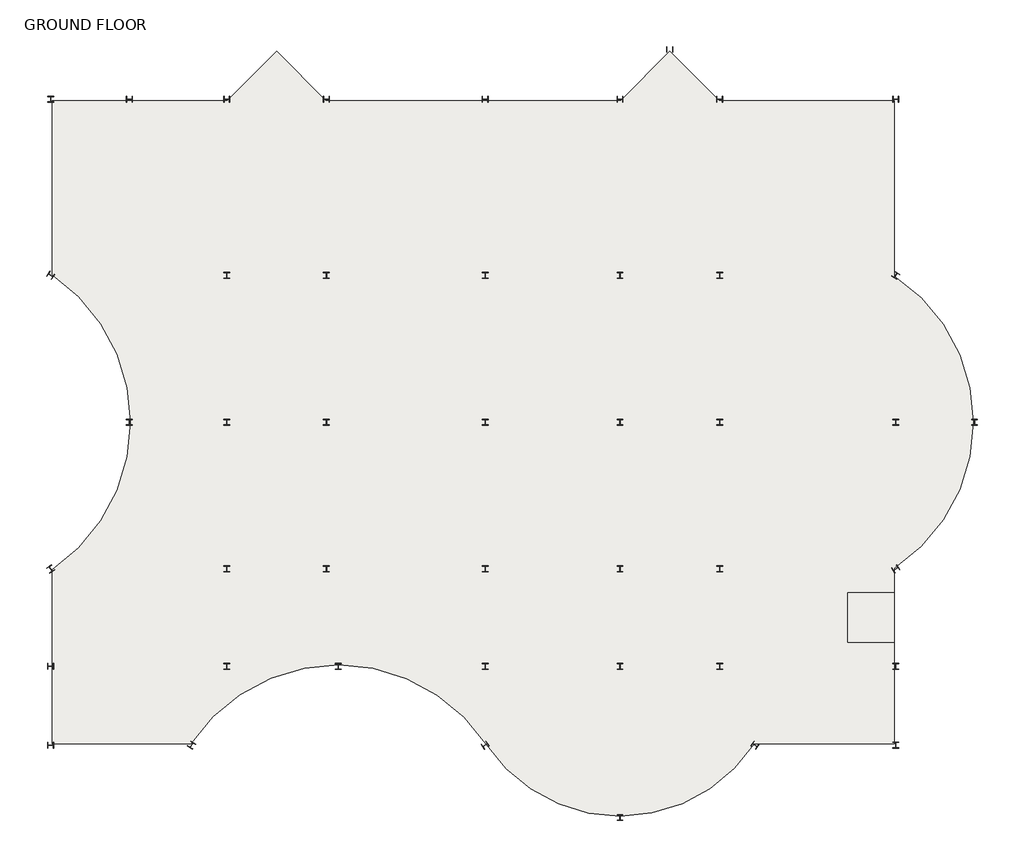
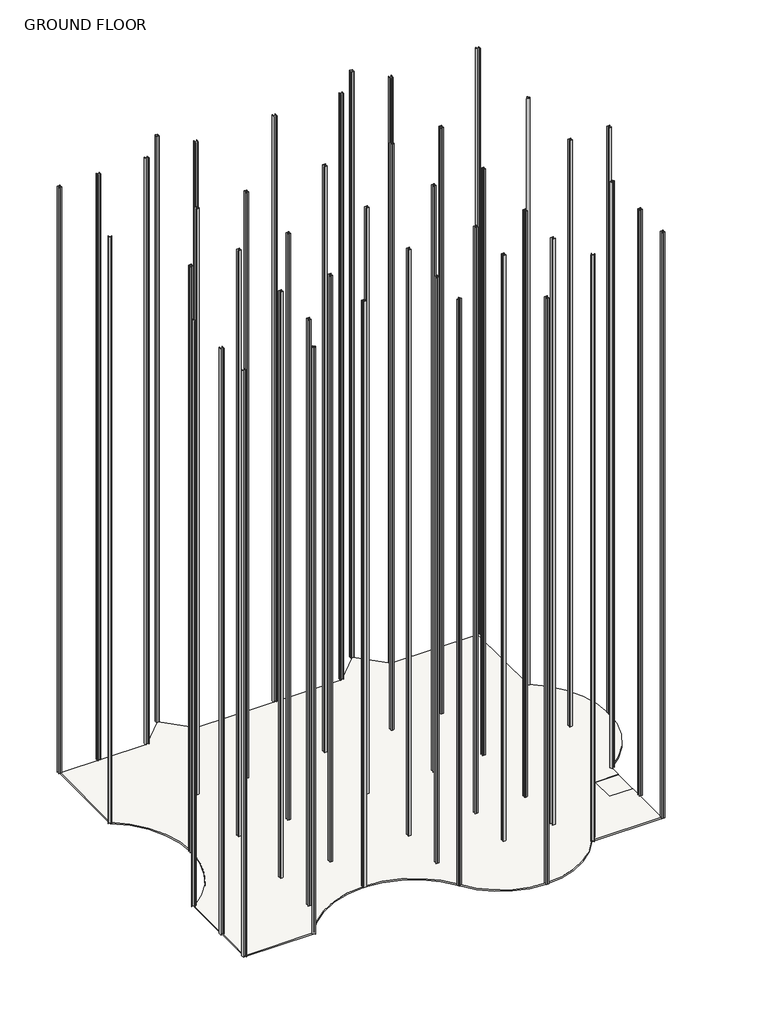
# One storey: 45 columns, 2 slabs.
"""IFC4 building model written with IfcOpenShell, lengths in millimetres."""

from ifc_helpers import new_model, si_unit, frame, origin, place, context, project, spatial, polyline, circle_curve, faceted_brep, transform, mapped, element, save
from ifc_brep_helpers import plane_surface, cylinder_surface, revolved_surface, advanced_brep
from components import square_hollow_sections_column_shs300x300x10_072c9116, uc_universal_columns_column_uc305x305x97_24c5e44f

model = new_model("IFC4")

# Units and contexts
model_context = context("Model", 3, world=origin())
ifc_project = project(units=[si_unit("LENGTHUNIT", "METRE", prefix="MILLI")], contexts=[model_context])

# Site, building, storey
site = spatial("IfcSite", under=ifc_project)
building = spatial("IfcBuilding", under=site)
storey = spatial("IfcBuildingStorey", under=building, Name="GROUND FLOOR", Elevation=0.0)

# Columns
placement = place(None, origin())
square_hollow_sections_column_shs300x300x10_shape = square_hollow_sections_column_shs300x300x10_072c9116(model_context)
element("IfcColumn", 1, ObjectType="Square Hollow Sections-Column : SHS300x300x10", at=placement, inside=storey, context=model_context, shape_type="MappedRepresentation", body=[
    mapped(square_hollow_sections_column_shs300x300x10_shape, transform((11885.575, 36269.575, 0.0), x_axis=(0.0, 1.0, 0.0), y_axis=(-1.0, 0.0, 0.0), z_axis=(0.0, 0.0, 1.0))),
])
element("IfcColumn", 2, ObjectType="Square Hollow Sections-Column : SHS300x300x10", at=placement, inside=storey, context=model_context, shape_type="MappedRepresentation", body=[
    mapped(square_hollow_sections_column_shs300x300x10_shape, transform((32297.575, 36269.575, 0.0), x_axis=(0.0, 1.0, 0.0), y_axis=(-1.0, 0.0, 0.0), z_axis=(0.0, 0.0, 1.0))),
])
uc_universal_columns_column_uc305x305x97_shape = uc_universal_columns_column_uc305x305x97_24c5e44f(model_context)
element("IfcColumn", 3, ObjectType="UC-Universal Columns-Column : UC305x305x97", at=placement, inside=storey, context=model_context, shape_type="MappedRepresentation", body=[
    mapped(uc_universal_columns_column_uc305x305x97_shape, transform((155.575, 33683.575, 0.0), x_axis=(1.0, 0.0, 0.0), y_axis=(0.0, 1.0, 0.0), z_axis=(0.0, 0.0, 1.0))),
])
element("IfcColumn", 4, ObjectType="UC-Universal Columns-Column : UC305x305x97", at=placement, inside=storey, context=model_context, shape_type="MappedRepresentation", body=[
    mapped(uc_universal_columns_column_uc305x305x97_shape, transform((155.575, 24539.575, 0.0), x_axis=(0.5527707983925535, 0.8333333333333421, 0.0), y_axis=(-0.8333333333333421, 0.5527707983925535, 0.0), z_axis=(0.0, 0.0, 1.0))),
])
element("IfcColumn", 5, ObjectType="UC-Universal Columns-Column : UC305x305x97", at=placement, inside=storey, context=model_context, shape_type="MappedRepresentation", body=[
    mapped(uc_universal_columns_column_uc305x305x97_shape, transform((4244.575, 16919.575, 0.0), x_axis=(-1.0, 0.0, 0.0), y_axis=(0.0, -1.0, 0.0), z_axis=(0.0, 0.0, 1.0))),
])
element("IfcColumn", 6, ObjectType="UC-Universal Columns-Column : UC305x305x97", at=placement, inside=storey, context=model_context, shape_type="MappedRepresentation", body=[
    mapped(uc_universal_columns_column_uc305x305x97_shape, transform((155.575, 9299.575, 0.0), x_axis=(-0.8333333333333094, -0.5527707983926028, 0.0), y_axis=(0.5527707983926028, -0.8333333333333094, 0.0), z_axis=(0.0, 0.0, 1.0))),
])
element("IfcColumn", 7, ObjectType="UC-Universal Columns-Column : UC305x305x97", at=placement, inside=storey, context=model_context, shape_type="MappedRepresentation", body=[
    mapped(uc_universal_columns_column_uc305x305x97_shape, transform((155.575, 4244.575, 0.0), x_axis=(0.0, -1.0, 0.0), y_axis=(1.0, 0.0, 0.0), z_axis=(0.0, 0.0, 1.0))),
])
element("IfcColumn", 8, ObjectType="UC-Universal Columns-Column : UC305x305x97", at=placement, inside=storey, context=model_context, shape_type="MappedRepresentation", body=[
    mapped(uc_universal_columns_column_uc305x305x97_shape, transform((155.575, 155.575, 0.0), x_axis=(0.0, -1.0, 0.0), y_axis=(1.0, 0.0, 0.0), z_axis=(0.0, 0.0, 1.0))),
])
element("IfcColumn", 9, ObjectType="UC-Universal Columns-Column : UC305x305x97", at=placement, inside=storey, context=model_context, shape_type="MappedRepresentation", body=[
    mapped(uc_universal_columns_column_uc305x305x97_shape, transform((4244.575, 33683.575, 0.0), x_axis=(0.0, -1.0, 0.0), y_axis=(1.0, 0.0, 0.0), z_axis=(0.0, 0.0, 1.0))),
])
element("IfcColumn", 10, ObjectType="UC-Universal Columns-Column : UC305x305x97", at=placement, inside=storey, context=model_context, shape_type="MappedRepresentation", body=[
    mapped(uc_universal_columns_column_uc305x305x97_shape, transform((9299.575, 33683.575, 0.0), x_axis=(0.0, -1.0, 0.0), y_axis=(1.0, 0.0, 0.0), z_axis=(0.0, 0.0, 1.0))),
])
element("IfcColumn", 11, ObjectType="UC-Universal Columns-Column : UC305x305x97", at=placement, inside=storey, context=model_context, shape_type="MappedRepresentation", body=[
    mapped(uc_universal_columns_column_uc305x305x97_shape, transform((14471.575, 33683.575, 0.0), x_axis=(0.0, 1.0, 0.0), y_axis=(-1.0, 0.0, 0.0), z_axis=(0.0, 0.0, 1.0))),
])
element("IfcColumn", 12, ObjectType="UC-Universal Columns-Column : UC305x305x97", at=placement, inside=storey, context=model_context, shape_type="MappedRepresentation", body=[
    mapped(uc_universal_columns_column_uc305x305x97_shape, transform((22710.575, 33683.575, 0.0), x_axis=(0.0, 1.0, 0.0), y_axis=(-1.0, 0.0, 0.0), z_axis=(0.0, 0.0, 1.0))),
])
element("IfcColumn", 13, ObjectType="UC-Universal Columns-Column : UC305x305x97", at=placement, inside=storey, context=model_context, shape_type="MappedRepresentation", body=[
    mapped(uc_universal_columns_column_uc305x305x97_shape, transform((29711.575, 33683.575, 0.0), x_axis=(0.0, 1.0, 0.0), y_axis=(-1.0, 0.0, 0.0), z_axis=(0.0, 0.0, 1.0))),
])
element("IfcColumn", 14, ObjectType="UC-Universal Columns-Column : UC305x305x97", at=placement, inside=storey, context=model_context, shape_type="MappedRepresentation", body=[
    mapped(uc_universal_columns_column_uc305x305x97_shape, transform((34883.575, 33683.575, 0.0), x_axis=(0.0, 1.0, 0.0), y_axis=(-1.0, 0.0, 0.0), z_axis=(0.0, 0.0, 1.0))),
])
element("IfcColumn", 15, ObjectType="UC-Universal Columns-Column : UC305x305x97", at=placement, inside=storey, context=model_context, shape_type="MappedRepresentation", body=[
    mapped(uc_universal_columns_column_uc305x305x97_shape, transform((44027.575, 33683.575, 0.0), x_axis=(0.0, 1.0, 0.0), y_axis=(-1.0, 0.0, 0.0), z_axis=(0.0, 0.0, 1.0))),
])
element("IfcColumn", 16, ObjectType="UC-Universal Columns-Column : UC305x305x97", at=placement, inside=storey, context=model_context, shape_type="MappedRepresentation", body=[
    mapped(uc_universal_columns_column_uc305x305x97_shape, transform((44027.575, 24539.575, 0.0), x_axis=(-0.8333965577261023, 0.5526754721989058, 0.0), y_axis=(-0.5526754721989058, -0.8333965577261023, 0.0), z_axis=(0.0, 0.0, 1.0))),
])
element("IfcColumn", 17, ObjectType="UC-Universal Columns-Column : UC305x305x97", at=placement, inside=storey, context=model_context, shape_type="MappedRepresentation", body=[
    mapped(uc_universal_columns_column_uc305x305x97_shape, transform((48116.575, 16919.575, 0.0), x_axis=(-1.0, 0.0, 0.0), y_axis=(0.0, -1.0, 0.0), z_axis=(0.0, 0.0, 1.0))),
])
element("IfcColumn", 18, ObjectType="UC-Universal Columns-Column : UC305x305x97", at=placement, inside=storey, context=model_context, shape_type="MappedRepresentation", body=[
    mapped(uc_universal_columns_column_uc305x305x97_shape, transform((44027.575, 9299.575, 0.0), x_axis=(-0.5526754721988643, 0.8333965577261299, 0.0), y_axis=(-0.8333965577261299, -0.5526754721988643, 0.0), z_axis=(0.0, 0.0, 1.0))),
])
element("IfcColumn", 19, ObjectType="UC-Universal Columns-Column : UC305x305x97", at=placement, inside=storey, context=model_context, shape_type="MappedRepresentation", body=[
    mapped(uc_universal_columns_column_uc305x305x97_shape, transform((44027.575, 16919.575, 0.0), x_axis=(-1.0, 0.0, 0.0), y_axis=(0.0, -1.0, 0.0), z_axis=(0.0, 0.0, 1.0))),
])
element("IfcColumn", 20, ObjectType="UC-Universal Columns-Column : UC305x305x97", at=placement, inside=storey, context=model_context, shape_type="MappedRepresentation", body=[
    mapped(uc_universal_columns_column_uc305x305x97_shape, transform((44027.575, 4244.575, 0.0), x_axis=(-1.0, 0.0, 0.0), y_axis=(0.0, -1.0, 0.0), z_axis=(0.0, 0.0, 1.0))),
])
element("IfcColumn", 21, ObjectType="UC-Universal Columns-Column : UC305x305x97", at=placement, inside=storey, context=model_context, shape_type="MappedRepresentation", body=[
    mapped(uc_universal_columns_column_uc305x305x97_shape, transform((44027.575, 155.575, 0.0), x_axis=(-1.0, 0.0, 0.0), y_axis=(0.0, -1.0, 0.0), z_axis=(0.0, 0.0, 1.0))),
])
element("IfcColumn", 22, ObjectType="UC-Universal Columns-Column : UC305x305x97", at=placement, inside=storey, context=model_context, shape_type="MappedRepresentation", body=[
    mapped(uc_universal_columns_column_uc305x305x97_shape, transform((36716.575, 155.575, 0.0), x_axis=(-0.5526093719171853, -0.8334403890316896, 0.0), y_axis=(0.8334403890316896, -0.5526093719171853, 0.0), z_axis=(0.0, 0.0, 1.0))),
])
element("IfcColumn", 23, ObjectType="UC-Universal Columns-Column : UC305x305x97", at=placement, inside=storey, context=model_context, shape_type="MappedRepresentation", body=[
    mapped(uc_universal_columns_column_uc305x305x97_shape, transform((29711.575, -3601.425, 0.0), x_axis=(-0.9999999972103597, 7.469458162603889e-05, 0.0), y_axis=(-7.469458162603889e-05, -0.9999999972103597, 0.0), z_axis=(0.0, 0.0, 1.0))),
])
element("IfcColumn", 24, ObjectType="UC-Universal Columns-Column : UC305x305x97", at=placement, inside=storey, context=model_context, shape_type="MappedRepresentation", body=[
    mapped(uc_universal_columns_column_uc305x305x97_shape, transform((22710.575, 155.575, 0.0), x_axis=(-0.5527598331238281, 0.8333406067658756, 0.0), y_axis=(-0.8333406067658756, -0.5527598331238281, 0.0), z_axis=(0.0, 0.0, 1.0))),
])
element("IfcColumn", 25, ObjectType="UC-Universal Columns-Column : UC305x305x97", at=placement, inside=storey, context=model_context, shape_type="MappedRepresentation", body=[
    mapped(uc_universal_columns_column_uc305x305x97_shape, transform((15090.575, 4244.575, 0.0), x_axis=(-1.0, 0.0, 0.0), y_axis=(0.0, -1.0, 0.0), z_axis=(0.0, 0.0, 1.0))),
])
element("IfcColumn", 26, ObjectType="UC-Universal Columns-Column : UC305x305x97", at=placement, inside=storey, context=model_context, shape_type="MappedRepresentation", body=[
    mapped(uc_universal_columns_column_uc305x305x97_shape, transform((7470.575, 155.575, 0.0), x_axis=(0.8333400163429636, -0.5527607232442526, 0.0), y_axis=(0.5527607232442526, 0.8333400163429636, 0.0), z_axis=(0.0, 0.0, 1.0))),
])
element("IfcColumn", 27, ObjectType="UC-Universal Columns-Column : UC305x305x97", at=placement, inside=storey, context=model_context, shape_type="MappedRepresentation", body=[
    mapped(uc_universal_columns_column_uc305x305x97_shape, transform((9299.575, 4244.575, 0.0), x_axis=(1.0, 0.0, 0.0), y_axis=(0.0, 1.0, 0.0), z_axis=(0.0, 0.0, 1.0))),
])
element("IfcColumn", 28, ObjectType="UC-Universal Columns-Column : UC305x305x97", at=placement, inside=storey, context=model_context, shape_type="MappedRepresentation", body=[
    mapped(uc_universal_columns_column_uc305x305x97_shape, transform((9299.575, 9299.575, 0.0), x_axis=(1.0, 0.0, 0.0), y_axis=(0.0, 1.0, 0.0), z_axis=(0.0, 0.0, 1.0))),
])
element("IfcColumn", 29, ObjectType="UC-Universal Columns-Column : UC305x305x97", at=placement, inside=storey, context=model_context, shape_type="MappedRepresentation", body=[
    mapped(uc_universal_columns_column_uc305x305x97_shape, transform((9299.575, 16919.575, 0.0), x_axis=(1.0, 0.0, 0.0), y_axis=(0.0, 1.0, 0.0), z_axis=(0.0, 0.0, 1.0))),
])
element("IfcColumn", 30, ObjectType="UC-Universal Columns-Column : UC305x305x97", at=placement, inside=storey, context=model_context, shape_type="MappedRepresentation", body=[
    mapped(uc_universal_columns_column_uc305x305x97_shape, transform((9299.575, 24539.575, 0.0), x_axis=(1.0, 0.0, 0.0), y_axis=(0.0, 1.0, 0.0), z_axis=(0.0, 0.0, 1.0))),
])
element("IfcColumn", 31, ObjectType="UC-Universal Columns-Column : UC305x305x97", at=placement, inside=storey, context=model_context, shape_type="MappedRepresentation", body=[
    mapped(uc_universal_columns_column_uc305x305x97_shape, transform((14471.575, 9299.575, 0.0), x_axis=(1.0, 0.0, 0.0), y_axis=(0.0, 1.0, 0.0), z_axis=(0.0, 0.0, 1.0))),
])
element("IfcColumn", 32, ObjectType="UC-Universal Columns-Column : UC305x305x97", at=placement, inside=storey, context=model_context, shape_type="MappedRepresentation", body=[
    mapped(uc_universal_columns_column_uc305x305x97_shape, transform((14471.575, 16919.575, 0.0), x_axis=(1.0, 0.0, 0.0), y_axis=(0.0, 1.0, 0.0), z_axis=(0.0, 0.0, 1.0))),
])
element("IfcColumn", 33, ObjectType="UC-Universal Columns-Column : UC305x305x97", at=placement, inside=storey, context=model_context, shape_type="MappedRepresentation", body=[
    mapped(uc_universal_columns_column_uc305x305x97_shape, transform((14471.575, 24539.575, 0.0), x_axis=(1.0, 0.0, 0.0), y_axis=(0.0, 1.0, 0.0), z_axis=(0.0, 0.0, 1.0))),
])
element("IfcColumn", 34, ObjectType="UC-Universal Columns-Column : UC305x305x97", at=placement, inside=storey, context=model_context, shape_type="MappedRepresentation", body=[
    mapped(uc_universal_columns_column_uc305x305x97_shape, transform((22710.575, 24539.575, 0.0), x_axis=(1.0, 0.0, 0.0), y_axis=(0.0, 1.0, 0.0), z_axis=(0.0, 0.0, 1.0))),
])
element("IfcColumn", 35, ObjectType="UC-Universal Columns-Column : UC305x305x97", at=placement, inside=storey, context=model_context, shape_type="MappedRepresentation", body=[
    mapped(uc_universal_columns_column_uc305x305x97_shape, transform((29711.575, 24539.575, 0.0), x_axis=(1.0, 0.0, 0.0), y_axis=(0.0, 1.0, 0.0), z_axis=(0.0, 0.0, 1.0))),
])
element("IfcColumn", 36, ObjectType="UC-Universal Columns-Column : UC305x305x97", at=placement, inside=storey, context=model_context, shape_type="MappedRepresentation", body=[
    mapped(uc_universal_columns_column_uc305x305x97_shape, transform((34883.575, 24539.575, 0.0), x_axis=(1.0, 0.0, 0.0), y_axis=(0.0, 1.0, 0.0), z_axis=(0.0, 0.0, 1.0))),
])
element("IfcColumn", 37, ObjectType="UC-Universal Columns-Column : UC305x305x97", at=placement, inside=storey, context=model_context, shape_type="MappedRepresentation", body=[
    mapped(uc_universal_columns_column_uc305x305x97_shape, transform((34883.575, 16919.575, 0.0), x_axis=(1.0, 0.0, 0.0), y_axis=(0.0, 1.0, 0.0), z_axis=(0.0, 0.0, 1.0))),
])
element("IfcColumn", 38, ObjectType="UC-Universal Columns-Column : UC305x305x97", at=placement, inside=storey, context=model_context, shape_type="MappedRepresentation", body=[
    mapped(uc_universal_columns_column_uc305x305x97_shape, transform((34883.575, 9299.575, 0.0), x_axis=(1.0, 0.0, 0.0), y_axis=(0.0, 1.0, 0.0), z_axis=(0.0, 0.0, 1.0))),
])
element("IfcColumn", 39, ObjectType="UC-Universal Columns-Column : UC305x305x97", at=placement, inside=storey, context=model_context, shape_type="MappedRepresentation", body=[
    mapped(uc_universal_columns_column_uc305x305x97_shape, transform((34883.575, 4244.575, 0.0), x_axis=(1.0, 0.0, 0.0), y_axis=(0.0, 1.0, 0.0), z_axis=(0.0, 0.0, 1.0))),
])
element("IfcColumn", 40, ObjectType="UC-Universal Columns-Column : UC305x305x97", at=placement, inside=storey, context=model_context, shape_type="MappedRepresentation", body=[
    mapped(uc_universal_columns_column_uc305x305x97_shape, transform((29711.575, 4244.575, 0.0), x_axis=(1.0, 0.0, 0.0), y_axis=(0.0, 1.0, 0.0), z_axis=(0.0, 0.0, 1.0))),
])
element("IfcColumn", 41, ObjectType="UC-Universal Columns-Column : UC305x305x97", at=placement, inside=storey, context=model_context, shape_type="MappedRepresentation", body=[
    mapped(uc_universal_columns_column_uc305x305x97_shape, transform((29711.575, 9299.575, 0.0), x_axis=(1.0, 0.0, 0.0), y_axis=(0.0, 1.0, 0.0), z_axis=(0.0, 0.0, 1.0))),
])
element("IfcColumn", 42, ObjectType="UC-Universal Columns-Column : UC305x305x97", at=placement, inside=storey, context=model_context, shape_type="MappedRepresentation", body=[
    mapped(uc_universal_columns_column_uc305x305x97_shape, transform((29711.575, 16919.575, 0.0), x_axis=(1.0, 0.0, 0.0), y_axis=(0.0, 1.0, 0.0), z_axis=(0.0, 0.0, 1.0))),
])
element("IfcColumn", 43, ObjectType="UC-Universal Columns-Column : UC305x305x97", at=placement, inside=storey, context=model_context, shape_type="MappedRepresentation", body=[
    mapped(uc_universal_columns_column_uc305x305x97_shape, transform((22710.575, 16919.575, 0.0), x_axis=(1.0, 0.0, 0.0), y_axis=(0.0, 1.0, 0.0), z_axis=(0.0, 0.0, 1.0))),
])
element("IfcColumn", 44, ObjectType="UC-Universal Columns-Column : UC305x305x97", at=placement, inside=storey, context=model_context, shape_type="MappedRepresentation", body=[
    mapped(uc_universal_columns_column_uc305x305x97_shape, transform((22710.575, 9299.575, 0.0), x_axis=(1.0, 0.0, 0.0), y_axis=(0.0, 1.0, 0.0), z_axis=(0.0, 0.0, 1.0))),
])
element("IfcColumn", 45, ObjectType="UC-Universal Columns-Column : UC305x305x97", at=placement, inside=storey, context=model_context, shape_type="MappedRepresentation", body=[
    mapped(uc_universal_columns_column_uc305x305x97_shape, transform((22710.575, 4244.575, 0.0), x_axis=(1.0, 0.0, 0.0), y_axis=(0.0, 1.0, 0.0), z_axis=(0.0, 0.0, 1.0))),
])

# Slabs
element("IfcSlab", 46, ObjectType="150mm Foundation Slab on Grade", at=placement, inside=storey, context=model_context, shape_type="AdvancedBrep", body=[
    advanced_brep(
    [(228.5, 24578.6120346, -150.0), (228.5, 33610.65, -150.0), (9329.781524, 33610.65, -150.0), (11885.8887629, 36166.7572388, -150.0), (14441.9960017, 33610.65, -150.0), (29742.4090498, 33610.65, -150.0), (32298.5162886, 36166.7572388, -150.0), (34854.6235274, 33610.65, -150.0), (43955.9050515, 33610.65, -150.0), (43955.9050515, 24500.3369473, -150.0), (43955.9050515, 9338.8130527, -150.0), (43955.9050515, 8329.575, -150.0), (43955.9050515, 8079.575, -150.0), (41515.9050515, 8079.575, -150.0), (41515.9050515, 5464.575, -150.0), (43955.9050515, 5464.575, -150.0), (43955.9050515, 5214.575, -150.0), (43955.9050515, 228.5, -150.0), (36674.383023, 228.5, -150.0), (22771.5458333, 195.8858105, -150.0), (7431.7379654, 228.5, -150.0), (228.5, 228.5, -150.0), (228.5, 9260.5379654, -150.0), (228.5, 24578.6120346, 0.0), (228.5, 9260.5379654, 0.0), (228.5, 228.5, 0.0), (7431.7379654, 228.5, 0.0), (22771.5458333, 195.8858105, 0.0), (36674.383023, 228.5, 0.0), (43955.9050515, 228.5, 0.0), (43955.9050515, 5464.575, 0.0), (41515.9050515, 5464.575, 0.0), (41515.9050515, 8079.575, 0.0), (43955.9050515, 8079.575, 0.0), (43955.9050515, 9338.8130527, 0.0), (43955.9050515, 24500.3369473, 0.0), (43955.9050515, 33610.65, 0.0), (34854.6235274, 33610.65, 0.0), (32298.5162886, 36166.7572388, 0.0), (29742.4090498, 33610.65, 0.0), (14441.9960017, 33610.65, 0.0), (11885.8887629, 36166.7572388, 0.0), (9329.781524, 33610.65, 0.0), (228.5, 33610.65, 0.0), (43955.9050515, 8079.575, -50.0), (41515.9050515, 8079.575, -50.0), (41515.9050515, 5464.575, -50.0), (43955.9050515, 5464.575, -50.0)],
    [
        (0, 1),
        (1, 2),
        (2, 3),
        (3, 4),
        (4, 5),
        (5, 6),
        (6, 7),
        (7, 8),
        (8, 9),
        (9, 10, circle_curve(frame((38974.293871, 16919.575, -150.0), z_axis=(0.0, 0.0, -1.0), x_axis=(1.0, 0.0, 0.0)), 9071.075)),
        (10, 11),
        (11, 12),
        (12, 13),
        (13, 14),
        (14, 15),
        (15, 16),
        (16, 17),
        (17, 18),
        (18, 19, circle_curve(frame((29712.2025257, 4799.7966199, -150.0), z_axis=(0.0, 0.0, -1.0), x_axis=(1.0, 0.0, 0.0)), 8328.7880309)),
        (19, 20, circle_curve(frame((15090.775, -4898.9611805, -150.0), z_axis=(0.0, 0.0, 1.0), x_axis=(1.0, 0.0, 0.0)), 9216.925)),
        (20, 21),
        (21, 22),
        (22, 0, circle_curve(frame((-4898.9611805, 16919.575, -150.0), z_axis=(0.0, 0.0, 1.0), x_axis=(1.0, 0.0, 0.0)), 9216.925)),
        (23, 24, circle_curve(frame((-4898.9611805, 16919.575, 0.0), z_axis=(0.0, 0.0, -1.0), x_axis=(1.0, 0.0, 0.0)), 9216.925)),
        (24, 25),
        (25, 26),
        (26, 27, circle_curve(frame((15090.775, -4898.9611805, 0.0), z_axis=(0.0, 0.0, -1.0), x_axis=(1.0, 0.0, 0.0)), 9216.925)),
        (27, 28, circle_curve(frame((29712.2025257, 4799.7966199, 0.0), z_axis=(0.0, 0.0, 1.0), x_axis=(1.0, 0.0, 0.0)), 8328.7880309)),
        (28, 29),
        (29, 30),
        (30, 31),
        (31, 32),
        (32, 33),
        (33, 34),
        (34, 35, circle_curve(frame((38974.293871, 16919.575, 0.0), z_axis=(0.0, 0.0, 1.0), x_axis=(1.0, 0.0, 0.0)), 9071.075)),
        (35, 36),
        (36, 37),
        (37, 38),
        (38, 39),
        (39, 40),
        (40, 41),
        (41, 42),
        (42, 43),
        (43, 23),
        (0, 23),
        (43, 1),
        (42, 2),
        (41, 3),
        (40, 4),
        (39, 5),
        (38, 6),
        (37, 7),
        (36, 8),
        (35, 9),
        (34, 10),
        (33, 44),
        (44, 12),
        (17, 29),
        (28, 18),
        (27, 19),
        (26, 20),
        (25, 21),
        (24, 22),
        (32, 45),
        (45, 13),
        (31, 46),
        (46, 14),
        (30, 47),
        (47, 15),
    ],
    [
        plane_surface(frame((228.5, 24578.6120346, -150.0), z_axis=(0.0, 0.0, -1.0), x_axis=(0.0, 1.0, 0.0))),
        plane_surface(frame((228.5, 24578.6120346, 0.0), z_axis=(0.0, 0.0, 1.0), x_axis=(0.0, -1.0, 0.0))),
        plane_surface(frame((228.5, 24578.6120346, -150.0), z_axis=(-1.0, 0.0, 0.0), x_axis=(0.0, 0.0, 1.0))),
        plane_surface(frame((228.5, 33610.65, -150.0), z_axis=(0.0, 1.0, 0.0), x_axis=(0.0, 0.0, 1.0))),
        plane_surface(frame((9329.781524, 33610.65, -150.0), z_axis=(-0.7071067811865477, 0.7071067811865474, 0.0), x_axis=(0.0, 0.0, 1.0))),
        plane_surface(frame((11885.8887629, 36166.7572388, -150.0), z_axis=(0.7071067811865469, 0.7071067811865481, 0.0), x_axis=(0.0, 0.0, 1.0))),
        plane_surface(frame((14441.9960017, 33610.65, -150.0), z_axis=(0.0, 1.0, 0.0), x_axis=(0.0, 0.0, 1.0))),
        plane_surface(frame((29742.4090498, 33610.65, -150.0), z_axis=(-0.7071067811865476, 0.7071067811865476, 0.0), x_axis=(0.0, 0.0, 1.0))),
        plane_surface(frame((32298.5162886, 36166.7572388, -150.0), z_axis=(0.707106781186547, 0.7071067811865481, 0.0), x_axis=(0.0, 0.0, 1.0))),
        plane_surface(frame((34854.6235274, 33610.65, -150.0), z_axis=(0.0, 1.0, 0.0), x_axis=(0.0, 0.0, 1.0))),
        plane_surface(frame((43955.9050515, 33610.65, -150.0), z_axis=(1.0, 0.0, 0.0), x_axis=(0.0, 0.0, 1.0))),
        cylinder_surface(frame((38974.293871, 16919.575, 0.0), z_axis=(0.0, 0.0, -1.0), x_axis=(1.0, 0.0, 0.0)), 9071.075),
        plane_surface(frame((43955.9050515, 9338.8130527, -150.0), z_axis=(1.0, 0.0, 0.0), x_axis=(0.0, 0.0, 1.0))),
        plane_surface(frame((43955.9050515, 228.5, -150.0), z_axis=(0.0, -1.0, 0.0), x_axis=(0.0, 0.0, 1.0))),
        cylinder_surface(frame((29712.2025257, 4799.7966199, 0.0), z_axis=(0.0, 0.0, -1.0), x_axis=(1.0, 0.0, 0.0)), 8328.7880309),
        revolved_surface(polyline([(24307.699999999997, -4898.9611805, 0.0), (24307.699999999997, -4898.9611805, -150.0)]), (15090.775, -4898.9611805, 0.0), (0.0, 0.0, 1.0)),
        plane_surface(frame((7431.7379654, 228.5, -150.0), z_axis=(0.0, -1.0, 0.0), x_axis=(0.0, 0.0, 1.0))),
        plane_surface(frame((228.5, 228.5, -150.0), z_axis=(-1.0, 0.0, 0.0), x_axis=(0.0, 0.0, 1.0))),
        revolved_surface(polyline([(4317.963819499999, 16919.575, 0.0), (4317.963819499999, 16919.575, -150.0)]), (-4898.9611805, 16919.575, 0.0), (0.0, 0.0, 1.0)),
        plane_surface(frame((43955.9050515, 8079.575, -150.0), z_axis=(0.0, -1.0, 0.0), x_axis=(0.0, 0.0, 1.0))),
        plane_surface(frame((41515.9050515, 8079.575, -150.0), z_axis=(1.0, 0.0, 0.0), x_axis=(0.0, 0.0, 1.0))),
        plane_surface(frame((41515.9050515, 5464.575, -150.0), z_axis=(0.0, 1.0, 0.0), x_axis=(0.0, 0.0, 1.0))),
        plane_surface(frame((43955.9050515, 5464.575, -150.0), z_axis=(1.0, 0.0, 0.0), x_axis=(0.0, 0.0, 1.0))),
    ],
    [
        (0, [[1, 2, 3, 4, 5, 6, 7, 8, 9, 10, 11, 12, 13, 14, 15, 16, 17, 18, 19, 20, 21, 22, 23]]),
        (1, [[24, 25, 26, 27, 28, 29, 30, 31, 32, 33, 34, 35, 36, 37, 38, 39, 40, 41, 42, 43, 44]]),
        (2, [[-1, 45, -44, 46]]),
        (3, [[-2, -46, -43, 47]]),
        (4, [[-3, -47, -42, 48]]),
        (5, [[-4, -48, -41, 49]]),
        (6, [[-5, -49, -40, 50]]),
        (7, [[-6, -50, -39, 51]]),
        (8, [[-7, -51, -38, 52]]),
        (9, [[-8, -52, -37, 53]]),
        (10, [[-9, -53, -36, 54]]),
        (11, [[-10, -54, -35, 55]]),
        (12, [[-12, -11, -55, -34, 56, 57]]),
        (13, [[-18, 58, -29, 59]]),
        (14, [[-19, -59, -28, 60]]),
        (15, [[-20, -60, -27, 61]]),
        (16, [[-21, -61, -26, 62]]),
        (17, [[-22, -62, -25, 63]]),
        (18, [[-23, -63, -24, -45]]),
        (19, [[-13, -57, -56, -33, 64, 65]]),
        (20, [[-14, -65, -64, -32, 66, 67]]),
        (21, [[-15, -67, -66, -31, 68, 69]]),
        (22, [[-17, -16, -69, -68, -30, -58]]),
    ],
),
])
element("IfcSlab", 47, ObjectType="150mm Foundation Slab on Grade", at=placement, inside=storey, context=model_context, shape_type="Brep", body=[
    faceted_brep([(43955.9050515, 8079.575, -200.0), (43955.9050515, 5464.575, -200.0), (41515.9050515, 5464.575, -200.0), (41515.9050515, 8079.575, -200.0), (43955.9050515, 5464.575, -50.0), (43955.9050515, 8079.575, -50.0), (41515.9050515, 8079.575, -50.0), (41515.9050515, 5464.575, -50.0), (43955.9050515, 8079.575, -150.0), (43955.9050515, 5464.575, -150.0), (41515.9050515, 5464.575, -150.0), (41515.9050515, 8079.575, -150.0)], [[[0, 1, 2, 3]], [[4, 5, 6, 7]], [[1, 0, 8, 5, 4, 9]], [[2, 1, 9, 4, 7, 10]], [[3, 2, 10, 7, 6, 11]], [[0, 3, 11, 6, 5, 8]]]),
])

save(model, "model.ifc")
